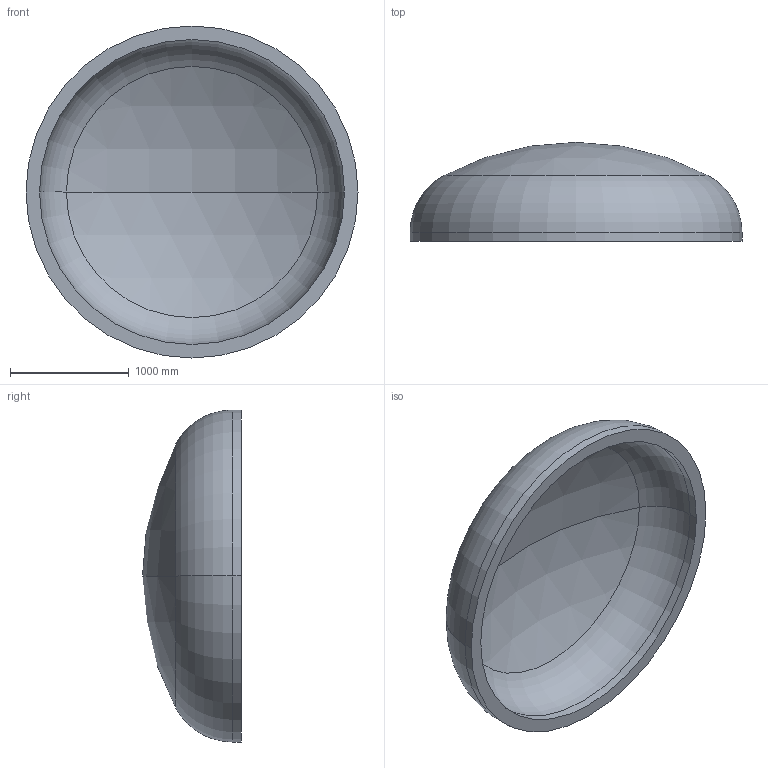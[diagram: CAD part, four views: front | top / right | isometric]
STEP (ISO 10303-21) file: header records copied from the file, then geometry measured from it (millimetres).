
FILE_DESCRIPTION (( 'STEP AP203' ), '1' );
FILE_NAME ('DIN 28013 Korbbogenform_-_Boden DIN 28013 - 2800 x 75 - I - s=114.step', '2016-07-01T17:21:59', ( '' ), ( '' ), 'SwSTEP 2.0', 'SolidWorks 2013', '' );
FILE_SCHEMA (( 'CONFIG_CONTROL_DESIGN' ));
Length unit declared in the file: millimetre
Products named in the file (1): DIN 28013 Korbbogenform_-_Boden DIN 28013 - 2800 x 75 - I - s=114
Bounding box: 2800 x 834.21 x 2800 mm (x, y, z)
Volume: 993899144.7 mm3; surface area: 18426008.7 mm2
Topology: 1 solids, 1 shells, 13 faces, 24 edges, 14 vertices
Faces by surface type: torus 4, cylinder 4, sphere 4, plane 1
Entity records: 407 total; most frequent: DIRECTION 72, CARTESIAN_POINT 52, ORIENTED_EDGE 48, AXIS2_PLACEMENT_3D 34, EDGE_CURVE 24, CIRCLE 20, EDGE_LOOP 14, VERTEX_POINT 14
